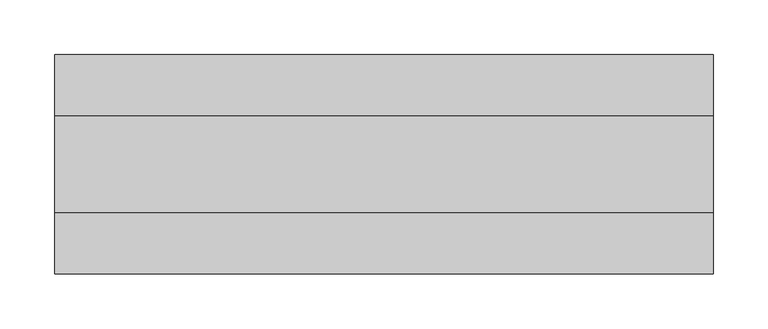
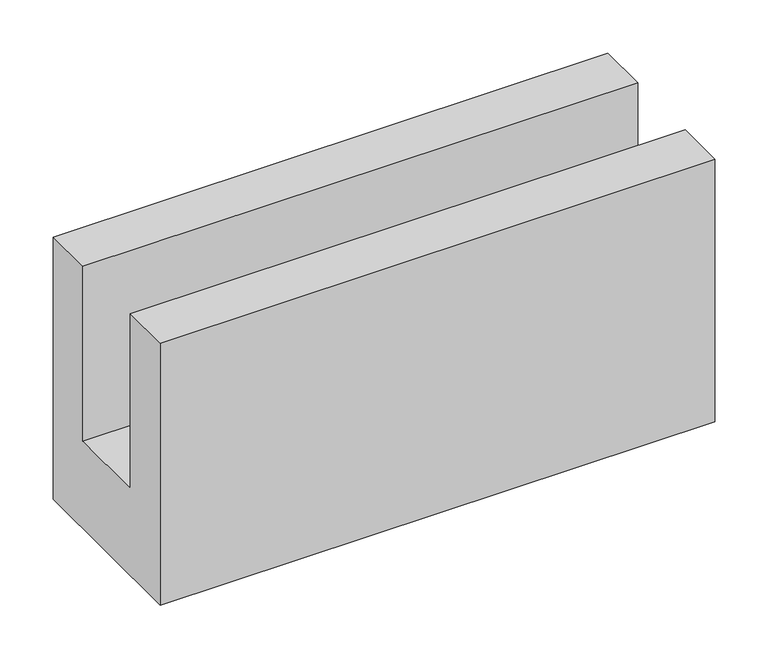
"""IFC4 building model written with IfcOpenShell, lengths in millimetres: proxy geometry, Módulo U de Concreto Celular - Celucon : MUCC 20x30x60cm (L x A x C)."""

from ifc_helpers import new_model, si_unit, frame, origin, place, context, project, spatial, polyline, outline, extrude, source, transform, mapped, element, save


def generic_models_1f1a3453(model_context):
    return source(origin(), model_context, "Body", "SweptSolid", [
        extrude(outline(polyline([(100.0, 0.0), (-100.0, 0.0), (-100.0, 300.0), (-44.5, 300.0), (-44.5, 100.0), (44.5, 100.0), (44.5, 300.0), (100.0, 300.0), (100.0, 0.0)])), frame((-300.0, 0.0, 0.0), z_axis=(1.0, 0.0, 0.0), x_axis=(0.0, 1.0, 0.0)), (0.0, 0.0, 1.0), 600.0),
    ])


if __name__ == "__main__":
    model = new_model("IFC4")
    model_context = context("Model", 3, world=origin())
    ifc_project = project(units=[si_unit("LENGTHUNIT", "METRE", prefix="MILLI")], contexts=[model_context])
    site = spatial("IfcSite", under=ifc_project)
    building = spatial("IfcBuilding", under=site)
    placement = place(None, origin())
    generic_models_shape = generic_models_1f1a3453(model_context)
    element("IfcBuildingElementProxy", 1, Name="Módulo U de Concreto Celular - Celucon : MUCC 20x30x60cm (L x A x C)", ObjectType="Módulo U de Concreto Celular - Celucon : MUCC 20x30x60cm (L x A x C)", at=placement, inside=building, context=model_context, shape_type="MappedRepresentation", body=[
        mapped(generic_models_shape, transform((0.0, 0.0, 0.0), x_axis=(1.0, 0.0, 0.0), y_axis=(0.0, 1.0, 0.0), z_axis=(0.0, 0.0, 1.0))),
    ])
    save(model, "model.ifc")
